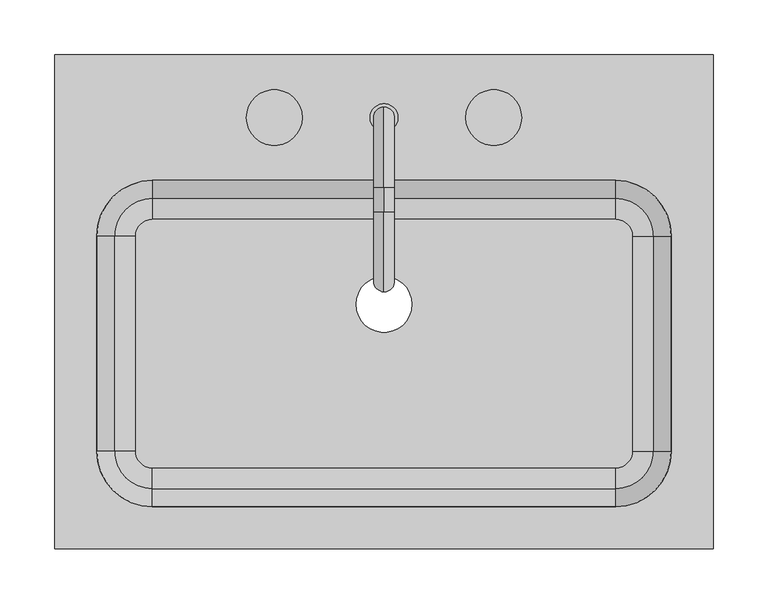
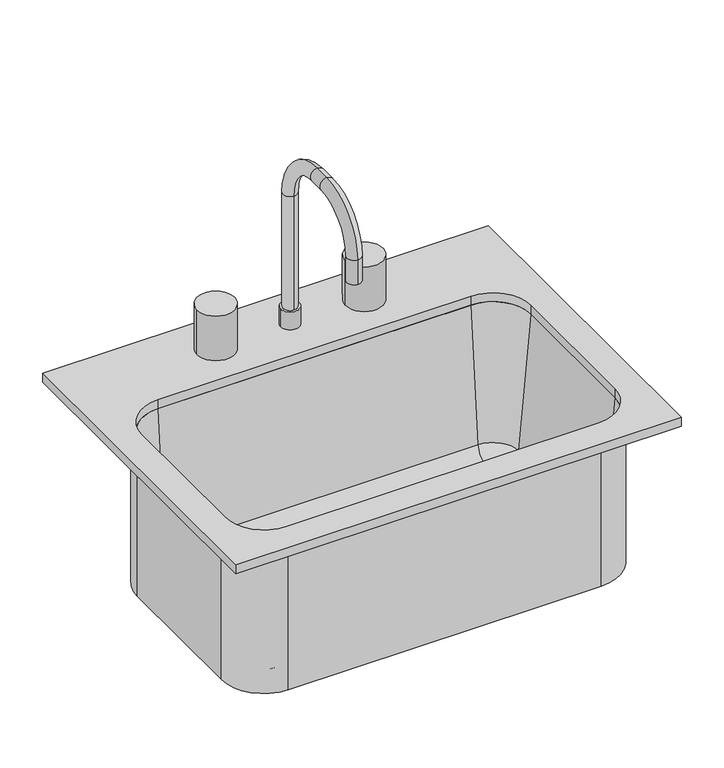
"""IFC4 building model written with IfcOpenShell, lengths in millimetres: flow terminal geometry, Pia Simples : Pia Simples."""

from ifc_helpers import new_model, si_unit, point, frame, frame_2d, origin, place, context, project, spatial, polyline, circle_curve, ellipse_curve, trimmed, segment, composite_curve, outline, extrude, source, transform, mapped, element, save
from ifc_brep_helpers import plane_surface, cylinder_surface, revolved_surface, advanced_brep


def flow_terminal_7ddc1dd5(model_context):
    return source(origin(), model_context, "Body", "SolidModel", [
        advanced_brep(
        [(283.9392406, 62.2454011, 684.1), (226.7892406, 119.3954011, 684.1), (226.7892406, 119.3954011, 900.0), (283.9392406, 62.2454011, 900.0), (283.9392406, -133.7545989, 684.1), (226.7892406, -190.9045989, 684.1), (-195.4107594, -190.9045989, 684.1), (-252.5607594, -133.7545989, 684.1), (-252.5607594, 62.2454011, 684.1), (-195.4107594, 119.3954011, 684.1), (-9.7107594, 0.0, 684.1), (41.0892406, 0.0, 684.1), (242.0776588, 62.2454011, 693.625), (226.7892406, 77.5338193, 693.625), (-195.4107594, 77.5338193, 693.625), (-210.6991776, 62.2454011, 693.625), (-210.6991776, -133.7545989, 693.625), (-195.4107594, -149.0430171, 693.625), (226.7892406, -149.0430171, 693.625), (242.0776588, -133.7545989, 693.625), (-9.7107594, 0.0, 693.625), (41.0892406, 0.0, 693.625), (261.0551678, 62.2454011, 711.0146831), (226.7892406, 96.5113283, 711.0146831), (277.5892406, 62.2454011, 900.0), (226.7892406, 113.0454011, 900.0), (283.9392406, -133.7545989, 900.0), (261.0551678, -133.7545989, 711.0146831), (277.5892406, -133.7545989, 900.0), (226.7892406, -190.9045989, 900.0), (226.7892406, -168.0205261, 711.0146831), (226.7892406, -184.5545989, 900.0), (-195.4107594, -190.9045989, 900.0), (-195.4107594, -168.0205261, 711.0146831), (-195.4107594, -184.5545989, 900.0), (-252.5607594, -133.7545989, 900.0), (-229.6766866, -133.7545989, 711.0146831), (-246.2107594, -133.7545989, 900.0), (-252.5607594, 62.2454011, 900.0), (-229.6766866, 62.2454011, 711.0146831), (-246.2107594, 62.2454011, 900.0), (-195.4107594, 119.3954011, 900.0), (-195.4107594, 96.5113283, 711.0146831), (-195.4107594, 113.0454011, 900.0)],
        [
            (0, 1, circle_curve(frame((226.7892406, 62.2454011, 684.1), z_axis=(0.0, 0.0, 1.0), x_axis=(0.0, 1.0, 0.0)), 57.15)),
            (1, 2),
            (2, 3, circle_curve(frame((226.7892406, 62.2454011, 900.0), z_axis=(0.0, 0.0, -1.0), x_axis=(0.0, 1.0, 0.0)), 57.15)),
            (3, 0),
            (0, 4),
            (4, 5, circle_curve(frame((226.7892406, -133.7545989, 684.1), z_axis=(0.0, 0.0, -1.0), x_axis=(1.0, 0.0, 0.0)), 57.15)),
            (5, 6),
            (6, 7, circle_curve(frame((-195.4107594, -133.7545989, 684.1), z_axis=(0.0, 0.0, -1.0), x_axis=(0.0, -1.0, 0.0)), 57.15)),
            (7, 8),
            (8, 9, circle_curve(frame((-195.4107594, 62.2454011, 684.1), z_axis=(0.0, 0.0, -1.0), x_axis=(-1.0, 0.0, 0.0)), 57.15)),
            (9, 1),
            (10, 11, circle_curve(frame((15.6892406, 0.0, 684.1), z_axis=(0.0, 0.0, 1.0), x_axis=(1.0, 0.0, 0.0)), 25.4)),
            (11, 10, circle_curve(frame((15.6892406, 0.0, 684.1), z_axis=(0.0, 0.0, 1.0), x_axis=(1.0, 0.0, 0.0)), 25.4)),
            (12, 13, circle_curve(frame((226.7892406, 62.2454011, 693.625), z_axis=(0.0, 0.0, 1.0), x_axis=(0.0, 1.0, 0.0)), 15.2884182)),
            (13, 14),
            (14, 15, circle_curve(frame((-195.4107594, 62.2454011, 693.625), z_axis=(0.0, 0.0, 1.0), x_axis=(-1.0, 0.0, 0.0)), 15.2884182)),
            (15, 16),
            (16, 17, circle_curve(frame((-195.4107594, -133.7545989, 693.625), z_axis=(0.0, 0.0, 1.0), x_axis=(0.0, -1.0, 0.0)), 15.2884182)),
            (17, 18),
            (18, 19, circle_curve(frame((226.7892406, -133.7545989, 693.625), z_axis=(0.0, 0.0, 1.0), x_axis=(1.0, 0.0, 0.0)), 15.2884182)),
            (19, 12),
            (20, 21, circle_curve(frame((15.6892406, 0.0, 693.625), z_axis=(0.0, 0.0, -1.0), x_axis=(1.0, 0.0, 0.0)), 25.4)),
            (21, 20, circle_curve(frame((15.6892406, 0.0, 693.625), z_axis=(0.0, 0.0, -1.0), x_axis=(1.0, 0.0, 0.0)), 25.4)),
            (12, 22, circle_curve(frame((242.0776588, 62.2454011, 712.675), z_axis=(0.0, -1.0, 0.0), x_axis=(1.0, 0.0, 0.0)), 19.05)),
            (22, 23, circle_curve(frame((226.7892406, 62.2454011, 711.0146831), z_axis=(0.0, 0.0, 1.0), x_axis=(0.0, 1.0, 0.0)), 34.2659272)),
            (23, 13, circle_curve(frame((226.7892406, 77.5338193, 712.675), z_axis=(-1.0, 0.0, 0.0), x_axis=(0.0, 1.0, 0.0)), 19.05)),
            (22, 24),
            (24, 25, circle_curve(frame((226.7892406, 62.2454011, 900.0), z_axis=(0.0, 0.0, 1.0), x_axis=(0.0, 1.0, 0.0)), 50.8)),
            (25, 23),
            (2, 25),
            (24, 3),
            (3, 26),
            (26, 4),
            (19, 27, circle_curve(frame((242.0776588, -133.7545989, 712.675), z_axis=(0.0, -1.0, 0.0), x_axis=(1.0, 0.0, 0.0)), 19.05)),
            (27, 22),
            (27, 28),
            (28, 24),
            (28, 26),
            (26, 29, circle_curve(frame((226.7892406, -133.7545989, 900.0), z_axis=(0.0, 0.0, -1.0), x_axis=(1.0, 0.0, 0.0)), 57.15)),
            (29, 5),
            (18, 30, circle_curve(frame((226.7892406, -149.0430171, 712.675), z_axis=(-1.0, 0.0, 0.0), x_axis=(0.0, -1.0, 0.0)), 19.05)),
            (30, 27, circle_curve(frame((226.7892406, -133.7545989, 711.0146831), z_axis=(0.0, 0.0, 1.0), x_axis=(1.0, 0.0, 0.0)), 34.2659272)),
            (30, 31),
            (31, 28, circle_curve(frame((226.7892406, -133.7545989, 900.0), z_axis=(0.0, 0.0, 1.0), x_axis=(1.0, 0.0, 0.0)), 50.8)),
            (31, 29),
            (29, 32),
            (32, 6),
            (17, 33, circle_curve(frame((-195.4107594, -149.0430171, 712.675), z_axis=(-1.0, 0.0, 0.0), x_axis=(0.0, -1.0, 0.0)), 19.05)),
            (33, 30),
            (33, 34),
            (34, 31),
            (34, 32),
            (32, 35, circle_curve(frame((-195.4107594, -133.7545989, 900.0), z_axis=(0.0, 0.0, -1.0), x_axis=(0.0, -1.0, 0.0)), 57.15)),
            (35, 7),
            (16, 36, circle_curve(frame((-210.6991776, -133.7545989, 712.675), z_axis=(0.0, 1.0, 0.0), x_axis=(-1.0, 0.0, 0.0)), 19.05)),
            (36, 33, circle_curve(frame((-195.4107594, -133.7545989, 711.0146831), z_axis=(0.0, 0.0, 1.0), x_axis=(0.0, -1.0, 0.0)), 34.2659272)),
            (36, 37),
            (37, 34, circle_curve(frame((-195.4107594, -133.7545989, 900.0), z_axis=(0.0, 0.0, 1.0), x_axis=(0.0, -1.0, 0.0)), 50.8)),
            (37, 35),
            (35, 38),
            (38, 8),
            (15, 39, circle_curve(frame((-210.6991776, 62.2454011, 712.675), z_axis=(0.0, 1.0, 0.0), x_axis=(-1.0, 0.0, 0.0)), 19.05)),
            (39, 36),
            (39, 40),
            (40, 37),
            (40, 38),
            (38, 41, circle_curve(frame((-195.4107594, 62.2454011, 900.0), z_axis=(0.0, 0.0, -1.0), x_axis=(-1.0, 0.0, 0.0)), 57.15)),
            (41, 9),
            (14, 42, circle_curve(frame((-195.4107594, 77.5338193, 712.675), z_axis=(1.0, 0.0, 0.0), x_axis=(0.0, 1.0, 0.0)), 19.05)),
            (42, 39, circle_curve(frame((-195.4107594, 62.2454011, 711.0146831), z_axis=(0.0, 0.0, 1.0), x_axis=(-1.0, 0.0, 0.0)), 34.2659272)),
            (42, 43),
            (43, 40, circle_curve(frame((-195.4107594, 62.2454011, 900.0), z_axis=(0.0, 0.0, 1.0), x_axis=(-1.0, 0.0, 0.0)), 50.8)),
            (43, 41),
            (41, 2),
            (23, 42),
            (25, 43),
            (20, 10),
            (11, 21),
        ],
        [
            cylinder_surface(frame((226.7892406, 62.2454011, 0.0), z_axis=(0.0, 0.0, -1.0), x_axis=(0.0, 1.0, 0.0)), 57.15),
            plane_surface(frame((226.7892406, 62.2454011, 684.1), z_axis=(0.0, 0.0, -1.0), x_axis=(0.0, 1.0, 0.0))),
            plane_surface(frame((226.7892406, 62.2454011, 693.625), z_axis=(0.0, 0.0, 1.0), x_axis=(0.0, 1.0, 0.0))),
            revolved_surface(trimmed(ellipse_curve(frame((226.7892406, 77.5338193, 712.675), z_axis=(1.0, 0.0, 0.0), x_axis=(0.0, 1.0, 0.0)), 19.05, 19.05), [point((226.7892406, 77.5338193, 693.625))], [point((226.7892406, 96.5113283, 711.0146831))], True, "CARTESIAN"), (226.7892406, 62.2454011, 0.0), (0.0, 0.0, -1.0)),
            revolved_surface(polyline([(226.7892406, 96.5113283, 711.0146831), (226.7892406, 113.0454011, 900.0)]), (226.7892406, 62.2454011, 0.0), (0.0, 0.0, -1.0)),
            plane_surface(frame((226.7892406, 62.2454011, 900.0), z_axis=(0.0, 0.0, 1.0), x_axis=(0.0, 1.0, 0.0))),
            plane_surface(frame((283.9392406, 62.2454011, 900.0), z_axis=(1.0, 0.0, 0.0), x_axis=(0.0, -1.0, 0.0))),
            revolved_surface(polyline([(261.1276588, -133.7545989, 712.675), (261.1276588, 62.2454011, 712.675)]), (242.0776588, 62.2454011, 712.675), (0.0, -1.0, 0.0)),
            plane_surface(frame((261.0551678, 62.2454011, 711.0146831), z_axis=(-0.9961946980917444, 0.0, 0.08715574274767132), x_axis=(0.0, -1.0, 0.0))),
            plane_surface(frame((277.5892406, 62.2454011, 900.0), z_axis=(0.0, 0.0, 1.0), x_axis=(0.0, -1.0, 0.0))),
            cylinder_surface(frame((226.7892406, -133.7545989, 0.0), z_axis=(0.0, 0.0, -1.0), x_axis=(1.0, 0.0, 0.0)), 57.15),
            revolved_surface(trimmed(ellipse_curve(frame((242.0776588, -133.7545989, 712.675), z_axis=(0.0, -1.0, 0.0), x_axis=(1.0, 0.0, 0.0)), 19.05, 19.05), [point((242.0776588, -133.7545989, 693.625))], [point((261.0551678, -133.7545989, 711.0146831))], True, "CARTESIAN"), (226.7892406, -133.7545989, 0.0), (0.0, 0.0, -1.0)),
            revolved_surface(polyline([(261.0551678, -133.7545989, 711.0146831), (277.5892406, -133.7545989, 900.0)]), (226.7892406, -133.7545989, 0.0), (0.0, 0.0, -1.0)),
            plane_surface(frame((226.7892406, -133.7545989, 900.0), z_axis=(0.0, 0.0, 1.0), x_axis=(1.0, 0.0, 0.0))),
            plane_surface(frame((226.7892406, -190.9045989, 900.0), z_axis=(0.0, -1.0, 0.0), x_axis=(-1.0, 0.0, 0.0))),
            revolved_surface(polyline([(-195.4107594, -168.0930171, 712.675), (226.7892406, -168.0930171, 712.675)]), (226.7892406, -149.0430171, 712.675), (-1.0, 0.0, 0.0)),
            plane_surface(frame((226.7892406, -168.0205261, 711.0146831), z_axis=(0.0, 0.9961946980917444, 0.08715574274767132), x_axis=(-1.0, 0.0, 0.0))),
            plane_surface(frame((226.7892406, -184.5545989, 900.0), z_axis=(0.0, 0.0, 1.0), x_axis=(-1.0, 0.0, 0.0))),
            cylinder_surface(frame((-195.4107594, -133.7545989, 0.0), z_axis=(0.0, 0.0, -1.0), x_axis=(0.0, -1.0, 0.0)), 57.15),
            revolved_surface(trimmed(ellipse_curve(frame((-195.4107594, -149.0430171, 712.675), z_axis=(-1.0, 0.0, 0.0), x_axis=(0.0, -1.0, 0.0)), 19.05, 19.05), [point((-195.4107594, -149.0430171, 693.625))], [point((-195.4107594, -168.0205261, 711.0146831))], True, "CARTESIAN"), (-195.4107594, -133.7545989, 0.0), (0.0, 0.0, -1.0)),
            revolved_surface(polyline([(-195.4107594, -168.0205261, 711.0146831), (-195.4107594, -184.5545989, 900.0)]), (-195.4107594, -133.7545989, 0.0), (0.0, 0.0, -1.0)),
            plane_surface(frame((-195.4107594, -133.7545989, 900.0), z_axis=(0.0, 0.0, 1.0), x_axis=(0.0, -1.0, 0.0))),
            plane_surface(frame((-252.5607594, -133.7545989, 900.0), z_axis=(-1.0, 0.0, 0.0), x_axis=(0.0, 1.0, 0.0))),
            revolved_surface(polyline([(-229.74917760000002, 62.24540110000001, 712.675), (-229.74917760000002, -133.7545989, 712.675)]), (-210.6991776, -133.7545989, 712.675), (0.0, 1.0, 0.0)),
            plane_surface(frame((-229.6766866, -133.7545989, 711.0146831), z_axis=(0.9961946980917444, 0.0, 0.08715574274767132), x_axis=(0.0, 1.0, 0.0))),
            plane_surface(frame((-246.2107594, -133.7545989, 900.0), z_axis=(0.0, 0.0, 1.0), x_axis=(0.0, 1.0, 0.0))),
            cylinder_surface(frame((-195.4107594, 62.2454011, 0.0), z_axis=(0.0, 0.0, -1.0), x_axis=(-1.0, 0.0, 0.0)), 57.15),
            revolved_surface(trimmed(ellipse_curve(frame((-210.6991776, 62.2454011, 712.675), z_axis=(0.0, 1.0, 0.0), x_axis=(-1.0, 0.0, 0.0)), 19.05, 19.05), [point((-210.6991776, 62.2454011, 693.625))], [point((-229.6766866, 62.2454011, 711.0146831))], True, "CARTESIAN"), (-195.4107594, 62.2454011, 0.0), (0.0, 0.0, -1.0)),
            revolved_surface(polyline([(-229.6766866, 62.2454011, 711.0146831), (-246.2107594, 62.2454011, 900.0)]), (-195.4107594, 62.2454011, 0.0), (0.0, 0.0, -1.0)),
            plane_surface(frame((-195.4107594, 62.2454011, 900.0), z_axis=(0.0, 0.0, 1.0), x_axis=(-1.0, 0.0, 0.0))),
            plane_surface(frame((-195.4107594, 119.3954011, 900.0), z_axis=(0.0, 1.0, 0.0), x_axis=(1.0, 0.0, 0.0))),
            revolved_surface(polyline([(226.7892406, 96.5838193, 712.675), (-195.4107594, 96.5838193, 712.675)]), (-195.4107594, 77.5338193, 712.675), (1.0, 0.0, 0.0)),
            plane_surface(frame((-195.4107594, 96.5113283, 711.0146831), z_axis=(0.0, -0.9961946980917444, 0.08715574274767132), x_axis=(1.0, 0.0, 0.0))),
            plane_surface(frame((-195.4107594, 113.0454011, 900.0), z_axis=(0.0, 0.0, 1.0), x_axis=(1.0, 0.0, 0.0))),
            revolved_surface(polyline([(41.0892406, 0.0, 684.1), (41.0892406, 0.0, 693.625)]), (15.6892406, 0.0, 0.0), (0.0, 0.0, -1.0)),
        ],
        [
            (0, [[1, 2, 3, 4]]),
            (1, [[-1, 5, 6, 7, 8, 9, 10, 11], [12, 13]]),
            (2, [[14, 15, 16, 17, 18, 19, 20, 21], [22, 23]]),
            (3, [[-14, 24, 25, 26]]),
            (4, [[-25, 27, 28, 29]]),
            (5, [[-3, 30, -28, 31]]),
            (6, [[-4, 32, 33, -5]]),
            (7, [[-24, -21, 34, 35]]),
            (8, [[-27, -35, 36, 37]]),
            (9, [[-31, -37, 38, -32]]),
            (10, [[-33, 39, 40, -6]]),
            (11, [[-34, -20, 41, 42]]),
            (12, [[-36, -42, 43, 44]]),
            (13, [[-38, -44, 45, -39]]),
            (14, [[-40, 46, 47, -7]]),
            (15, [[-41, -19, 48, 49]]),
            (16, [[-43, -49, 50, 51]]),
            (17, [[-45, -51, 52, -46]]),
            (18, [[-47, 53, 54, -8]]),
            (19, [[-48, -18, 55, 56]]),
            (20, [[-50, -56, 57, 58]]),
            (21, [[-52, -58, 59, -53]]),
            (22, [[-54, 60, 61, -9]]),
            (23, [[-55, -17, 62, 63]]),
            (24, [[-57, -63, 64, 65]]),
            (25, [[-59, -65, 66, -60]]),
            (26, [[-61, 67, 68, -10]]),
            (27, [[-62, -16, 69, 70]]),
            (28, [[-64, -70, 71, 72]]),
            (29, [[-66, -72, 73, -67]]),
            (30, [[-2, -11, -68, 74]]),
            (31, [[-26, 75, -69, -15]]),
            (32, [[-29, 76, -71, -75]]),
            (33, [[-30, -74, -73, -76]]),
            (34, [[-22, 77, -13, 78]]),
            (34, [[-23, -78, -12, -77]]),
        ],
    ),
        advanced_brep(
        [(2.9892406, 170.1954011, 938.1), (28.3892406, 170.1954011, 938.1), (15.6892406, 179.7204011, 938.1), (15.6892406, 160.6704011, 938.1), (2.9892406, 170.1954011, 912.7), (28.3892406, 170.1954011, 912.7), (15.6892406, 179.7204011, 1100.025), (15.6892406, 160.6704011, 1100.025), (15.6892406, 106.6954011, 1173.05), (15.6892406, 106.6954011, 1154.0), (15.6892406, 84.4704011, 1173.05), (15.6892406, 84.4704011, 1154.0), (15.6892406, 11.4454011, 1100.025), (15.6892406, 30.4954011, 1100.025), (15.6892406, 11.4454011, 1065.1), (15.6892406, 30.4954011, 1065.1)],
        [
            (0, 1, circle_curve(frame((15.6892406, 170.1954011, 938.1), z_axis=(0.0, 0.0, 1.0), x_axis=(1.0, 0.0, 0.0)), 12.7)),
            (1, 0, circle_curve(frame((15.6892406, 170.1954011, 938.1), z_axis=(0.0, 0.0, 1.0), x_axis=(1.0, 0.0, 0.0)), 12.7)),
            (2, 3, circle_curve(frame((15.6892406, 170.1954011, 938.1), z_axis=(0.0, 0.0, -1.0), x_axis=(0.0, -1.0, 0.0)), 9.525)),
            (3, 2, circle_curve(frame((15.6892406, 170.1954011, 938.1), z_axis=(0.0, 0.0, -1.0), x_axis=(0.0, -1.0, 0.0)), 9.525)),
            (4, 5, circle_curve(frame((15.6892406, 170.1954011, 912.7), z_axis=(0.0, 0.0, -1.0), x_axis=(1.0, 0.0, 0.0)), 12.7)),
            (5, 4, circle_curve(frame((15.6892406, 170.1954011, 912.7), z_axis=(0.0, 0.0, -1.0), x_axis=(1.0, 0.0, 0.0)), 12.7)),
            (0, 4),
            (5, 1),
            (6, 7, circle_curve(frame((15.6892406, 170.1954011, 1100.025), z_axis=(0.0, 0.0, -1.0), x_axis=(0.0, -1.0, 0.0)), 9.525)),
            (7, 3),
            (2, 6),
            (7, 6, circle_curve(frame((15.6892406, 170.1954011, 1100.025), z_axis=(0.0, 0.0, -1.0), x_axis=(0.0, -1.0, 0.0)), 9.525)),
            (6, 8, circle_curve(frame((15.6892406, 106.6954011, 1100.025), z_axis=(1.0, 0.0, 0.0), x_axis=(0.0, 1.0, 0.0)), 73.025)),
            (8, 9, circle_curve(frame((15.6892406, 106.6954011, 1163.525), z_axis=(0.0, 1.0, 0.0), x_axis=(0.0, 0.0, -1.0)), 9.525)),
            (9, 7, circle_curve(frame((15.6892406, 106.6954011, 1100.025), z_axis=(-1.0, 0.0, 0.0), x_axis=(0.0, 1.0, 0.0)), 53.975)),
            (9, 8, circle_curve(frame((15.6892406, 106.6954011, 1163.525), z_axis=(0.0, 1.0, 0.0), x_axis=(0.0, 0.0, -1.0)), 9.525)),
            (8, 10),
            (10, 11, circle_curve(frame((15.6892406, 84.4704011, 1163.525), z_axis=(0.0, 1.0, 0.0), x_axis=(0.0, 0.0, -1.0)), 9.525)),
            (11, 9),
            (11, 10, circle_curve(frame((15.6892406, 84.4704011, 1163.525), z_axis=(0.0, 1.0, 0.0), x_axis=(0.0, 0.0, -1.0)), 9.525)),
            (10, 12, circle_curve(frame((15.6892406, 84.4704011, 1100.025), z_axis=(1.0, 0.0, 0.0), x_axis=(0.0, 0.0, 1.0)), 73.025)),
            (12, 13, circle_curve(frame((15.6892406, 20.9704011, 1100.025), z_axis=(0.0, 0.0, 1.0), x_axis=(0.0, 1.0, 0.0)), 9.525)),
            (13, 11, circle_curve(frame((15.6892406, 84.4704011, 1100.025), z_axis=(-1.0, 0.0, 0.0), x_axis=(0.0, 0.0, 1.0)), 53.975)),
            (13, 12, circle_curve(frame((15.6892406, 20.9704011, 1100.025), z_axis=(0.0, 0.0, 1.0), x_axis=(0.0, 1.0, 0.0)), 9.525)),
            (14, 15, circle_curve(frame((15.6892406, 20.9704011, 1065.1), z_axis=(0.0, 0.0, -1.0), x_axis=(0.0, 1.0, 0.0)), 9.525)),
            (15, 14, circle_curve(frame((15.6892406, 20.9704011, 1065.1), z_axis=(0.0, 0.0, -1.0), x_axis=(0.0, 1.0, 0.0)), 9.525)),
            (12, 14),
            (15, 13),
        ],
        [
            plane_surface(frame((28.3892406, 170.1954011, 938.1), z_axis=(0.0, 0.0, 1.0), x_axis=(0.0, 1.0, 0.0))),
            plane_surface(frame((28.3892406, 170.1954011, 912.7), z_axis=(0.0, 0.0, -1.0), x_axis=(0.0, -1.0, 0.0))),
            cylinder_surface(frame((15.6892406, 170.1954011, 912.7), z_axis=(0.0, 0.0, 1.0), x_axis=(1.0, 0.0, 0.0)), 12.7),
            cylinder_surface(frame((15.6892406, 170.1954011, 912.7), z_axis=(0.0, 0.0, -1.0), x_axis=(0.0, -1.0, 0.0)), 9.525),
            revolved_surface(trimmed(ellipse_curve(frame((15.6892406, 170.1954011, 1100.025), z_axis=(0.0, 0.0, -1.0), x_axis=(0.0, -1.0, 0.0)), 9.525, 9.525), [point((15.6892406, 179.7204011, 1100.025))], [point((15.6892406, 160.6704011, 1100.025))], True, "CARTESIAN"), (15.6892406, 106.6954011, 1100.025), (1.0, 0.0, 0.0)),
            revolved_surface(trimmed(ellipse_curve(frame((15.6892406, 170.1954011, 1100.025), z_axis=(0.0, 0.0, -1.0), x_axis=(0.0, -1.0, 0.0)), 9.525, 9.525), [point((15.6892406, 160.6704011, 1100.025))], [point((15.6892406, 179.7204011, 1100.025))], True, "CARTESIAN"), (15.6892406, 106.6954011, 1100.025), (1.0, 0.0, 0.0)),
            cylinder_surface(frame((15.6892406, 106.6954011, 1163.525), z_axis=(0.0, 1.0, 0.0), x_axis=(0.0, 0.0, -1.0)), 9.525),
            revolved_surface(trimmed(ellipse_curve(frame((15.6892406, 84.4704011, 1163.525), z_axis=(0.0, 1.0, 0.0), x_axis=(0.0, 0.0, -1.0)), 9.525, 9.525), [point((15.6892406, 84.4704011, 1173.05))], [point((15.6892406, 84.4704011, 1154.0))], True, "CARTESIAN"), (15.6892406, 84.4704011, 1100.025), (1.0, 0.0, 0.0)),
            revolved_surface(trimmed(ellipse_curve(frame((15.6892406, 84.4704011, 1163.525), z_axis=(0.0, 1.0, 0.0), x_axis=(0.0, 0.0, -1.0)), 9.525, 9.525), [point((15.6892406, 84.4704011, 1154.0))], [point((15.6892406, 84.4704011, 1173.05))], True, "CARTESIAN"), (15.6892406, 84.4704011, 1100.025), (1.0, 0.0, 0.0)),
            plane_surface(frame((15.6892406, 11.4454011, 1065.1), z_axis=(0.0, 0.0, -1.0), x_axis=(-1.0, 0.0, 0.0))),
            cylinder_surface(frame((15.6892406, 20.9704011, 1100.025), z_axis=(0.0, 0.0, 1.0), x_axis=(0.0, 1.0, 0.0)), 9.525),
        ],
        [
            (0, [[1, 2], [3, 4]]),
            (1, [[5, 6]]),
            (2, [[-1, 7, -6, 8]]),
            (2, [[-2, -8, -5, -7]]),
            (3, [[9, 10, -3, 11]]),
            (3, [[12, -11, -4, -10]]),
            (4, [[-9, 13, 14, 15]]),
            (5, [[-12, -15, 16, -13]]),
            (6, [[-14, 17, 18, 19]]),
            (6, [[-16, -19, 20, -17]]),
            (7, [[-18, 21, 22, 23]]),
            (8, [[-20, -23, 24, -21]]),
            (9, [[25, 26]]),
            (10, [[-22, 27, -26, 28]]),
            (10, [[-24, -28, -25, -27]]),
        ],
    ),
        extrude(outline(composite_curve([segment(trimmed(circle_curve(frame_2d((-84.3107594, 170.1954011)), 25.4), [point((-109.7107594, 170.1954011))], [point((-58.9107594, 170.1954011))], False, "CARTESIAN"), True, "CONTINUOUS"), segment(trimmed(circle_curve(frame_2d((-84.3107594, 170.1954011)), 25.4), [point((-58.9107594, 170.1954011))], [point((-109.7107594, 170.1954011))], False, "CARTESIAN"), True, "CONTINUOUS")], self_intersect=False)), frame((0.0, 0.0, 912.7), z_axis=(0.0, 0.0, 1.0), x_axis=(1.0, 0.0, 0.0)), (0.0, 0.0, 1.0), 63.5),
        extrude(outline(composite_curve([segment(trimmed(circle_curve(frame_2d((115.6892406, 170.1954011)), 25.4), [point((90.2892406, 170.1954011))], [point((141.0892406, 170.1954011))], False, "CARTESIAN"), True, "CONTINUOUS"), segment(trimmed(circle_curve(frame_2d((115.6892406, 170.1954011)), 25.4), [point((141.0892406, 170.1954011))], [point((90.2892406, 170.1954011))], False, "CARTESIAN"), True, "CONTINUOUS")], self_intersect=False)), frame((0.0, 0.0, 912.7), z_axis=(0.0, 0.0, 1.0), x_axis=(1.0, 0.0, 0.0)), (0.0, 0.0, 1.0), 63.5),
        extrude(outline(polyline([(315.6892406, 227.3454011), (315.6892406, -222.6545989), (-284.3107594, -222.6545989), (-284.3107594, 227.3454011), (315.6892406, 227.3454011)]), holes=[composite_curve([segment(polyline([(226.7892406, 113.0454011), (-195.4107594, 113.0454011)]), True, "CONTINUOUS"), segment(trimmed(circle_curve(frame_2d((-195.4107594, 62.2454011)), 50.8), [point((-195.4107594, 113.0454011))], [point((-246.2107594, 62.2454011))], True, "CARTESIAN"), True, "CONTINUOUS"), segment(polyline([(-246.2107594, 62.2454011), (-246.2107594, -133.7545989)]), True, "CONTINUOUS"), segment(trimmed(circle_curve(frame_2d((-195.4107594, -133.7545989)), 50.8), [point((-246.2107594, -133.7545989))], [point((-195.4107594, -184.5545989))], True, "CARTESIAN"), True, "CONTINUOUS"), segment(polyline([(-195.4107594, -184.5545989), (226.7892406, -184.5545989)]), True, "CONTINUOUS"), segment(trimmed(circle_curve(frame_2d((226.7892406, -133.7545989)), 50.8), [point((226.7892406, -184.5545989))], [point((277.5892406, -133.7545989))], True, "CARTESIAN"), True, "CONTINUOUS"), segment(polyline([(277.5892406, -133.7545989), (277.5892406, 62.2454011)]), True, "CONTINUOUS"), segment(trimmed(circle_curve(frame_2d((226.7892406, 62.2454011)), 50.8), [point((277.5892406, 62.2454011))], [point((226.7892406, 113.0454011))], True, "CARTESIAN"), True, "CONTINUOUS")], self_intersect=False)]), frame((0.0, 0.0, 900.0), z_axis=(0.0, 0.0, 1.0), x_axis=(1.0, 0.0, 0.0)), (0.0, 0.0, 1.0), 12.7),
    ])


if __name__ == "__main__":
    model = new_model("IFC4")
    model_context = context("Model", 3, world=origin())
    ifc_project = project(units=[si_unit("LENGTHUNIT", "METRE", prefix="MILLI")], contexts=[model_context])
    site = spatial("IfcSite", under=ifc_project)
    building = spatial("IfcBuilding", under=site)
    placement = place(None, origin())
    flow_terminal_shape = flow_terminal_7ddc1dd5(model_context)
    element("IfcFlowTerminal", 1, ObjectType="Pia Simples : Pia Simples", at=placement, inside=building, context=model_context, shape_type="MappedRepresentation", body=[
        mapped(flow_terminal_shape, transform((0.0, 0.0, 0.0), x_axis=(1.0, 0.0, 0.0), y_axis=(0.0, 1.0, 0.0), z_axis=(0.0, 0.0, 1.0))),
    ])
    save(model, "model.ifc")
